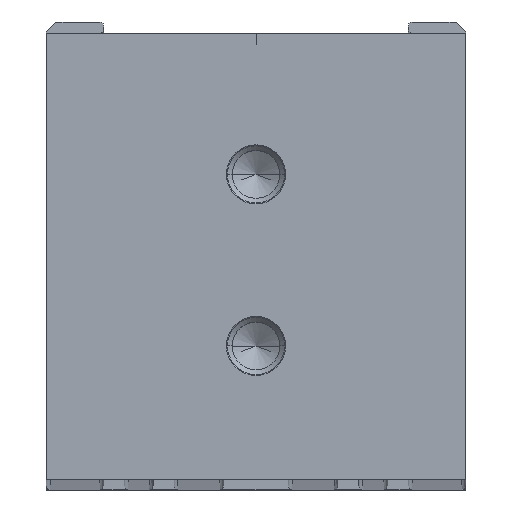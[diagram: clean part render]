
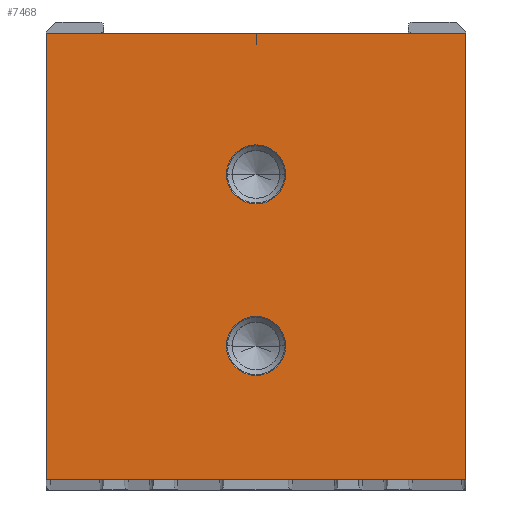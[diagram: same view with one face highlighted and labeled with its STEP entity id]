
A CAD part, top view. The second image highlights one B-rep face of the part: STEP entity #7468.
In plain terms, the highlighted planar face has unit normal (0, 0, 1).
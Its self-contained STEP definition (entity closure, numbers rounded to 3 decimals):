
#2595=DIRECTION('',(-1.,0.,0.));
#2596=VECTOR('',#2595,22.);
#2597=CARTESIAN_POINT('',(11.,11.402,154.));
#2598=LINE('',#2597,#2596);
#2599=DIRECTION('',(0.,1.,0.));
#2600=VECTOR('',#2599,23.402);
#2601=CARTESIAN_POINT('',(11.,-11.999,154.));
#2602=LINE('',#2601,#2600);
#2603=DIRECTION('',(1.,0.,0.));
#2604=VECTOR('',#2603,22.);
#2605=CARTESIAN_POINT('',(-11.,-12.007,154.));
#2606=LINE('',#2605,#2604);
#2607=DIRECTION('',(0.,-1.,0.));
#2608=VECTOR('',#2607,23.409);
#2609=CARTESIAN_POINT('',(-11.,11.402,154.));
#2610=LINE('',#2609,#2608);
#2611=CARTESIAN_POINT('',(0.,-4.996,
154.));
#2612=DIRECTION('',(0.,0.,-1.));
#2613=DIRECTION('',(-1.,0.,0.));
#2614=AXIS2_PLACEMENT_3D('',#2611,#2612,#2613);
#2616=CARTESIAN_POINT('',(0.,-4.996,
154.));
#2617=DIRECTION('',(0.,0.,-1.));
#2618=DIRECTION('',(1.,0.,0.));
#2619=AXIS2_PLACEMENT_3D('',#2616,#2617,#2618);
#2621=CARTESIAN_POINT('',(0.,4.004,
154.));
#2622=DIRECTION('',(0.,0.,-1.));
#2623=DIRECTION('',(-1.,0.,0.));
#2624=AXIS2_PLACEMENT_3D('',#2621,#2622,#2623);
#2626=CARTESIAN_POINT('',(0.,4.004,
154.));
#2627=DIRECTION('',(0.,0.,-1.));
#2628=DIRECTION('',(1.,0.,0.));
#2629=AXIS2_PLACEMENT_3D('',#2626,#2627,#2628);
#2955=CARTESIAN_POINT('',(-11.,11.402,154.));
#2956=CARTESIAN_POINT('',(-11.,-12.007,154.));
#2957=VERTEX_POINT('',#2955);
#2958=VERTEX_POINT('',#2956);
#2959=CARTESIAN_POINT('',(11.,-11.999,154.));
#2960=VERTEX_POINT('',#2959);
#2961=CARTESIAN_POINT('',(11.,11.402,154.));
#2962=VERTEX_POINT('',#2961);
#3761=CARTESIAN_POINT('',(-1.55,-4.996,
154.));
#3762=CARTESIAN_POINT('',(1.55,-4.996,154.));
#3763=VERTEX_POINT('',#3761);
#3764=VERTEX_POINT('',#3762);
#3769=CARTESIAN_POINT('',(-1.55,4.004,154.));
#3770=CARTESIAN_POINT('',(1.55,4.004,154.));
#3771=VERTEX_POINT('',#3769);
#3772=VERTEX_POINT('',#3770);
#7445=CARTESIAN_POINT('',(0.,0.,154.));
#7446=DIRECTION('',(0.,0.,1.));
#7447=DIRECTION('',(1.,0.,0.));
#7448=AXIS2_PLACEMENT_3D('',#7445,#7446,#7447);
#7449=PLANE('',#7448);
#7450=ORIENTED_EDGE('',*,*,#3844,.F.);
#7451=ORIENTED_EDGE('',*,*,#3939,.F.);
#7452=ORIENTED_EDGE('',*,*,#4781,.F.);
#7453=ORIENTED_EDGE('',*,*,#4092,.F.);
#7454=EDGE_LOOP('',(#7450,#7451,#7452,#7453));
#7455=FACE_OUTER_BOUND('',#7454,.F.);
#7457=ORIENTED_EDGE('',*,*,#7456,.F.);
#7459=ORIENTED_EDGE('',*,*,#7458,.F.);
#7460=EDGE_LOOP('',(#7457,#7459));
#7461=FACE_BOUND('',#7460,.F.);
#7463=ORIENTED_EDGE('',*,*,#7462,.F.);
#7465=ORIENTED_EDGE('',*,*,#7464,.F.);
#7466=EDGE_LOOP('',(#7463,#7465));
#7467=FACE_BOUND('',#7466,.F.);
#2615=CIRCLE('',#2614,1.55);
#2620=CIRCLE('',#2619,1.55);
#2625=CIRCLE('',#2624,1.55);
#2630=CIRCLE('',#2629,1.55);
#3844=EDGE_CURVE('',#2962,#2957,#2598,.T.);
#3939=EDGE_CURVE('',#2960,#2962,#2602,.T.);
#4092=EDGE_CURVE('',#2957,#2958,#2610,.T.);
#4781=EDGE_CURVE('',#2958,#2960,#2606,.T.);
#7456=EDGE_CURVE('',#3763,#3764,#2615,.T.);
#7458=EDGE_CURVE('',#3764,#3763,#2620,.T.);
#7462=EDGE_CURVE('',#3771,#3772,#2625,.T.);
#7464=EDGE_CURVE('',#3772,#3771,#2630,.T.);
#7468=ADVANCED_FACE('',(#7455,#7461,#7467),#7449,.T.);
